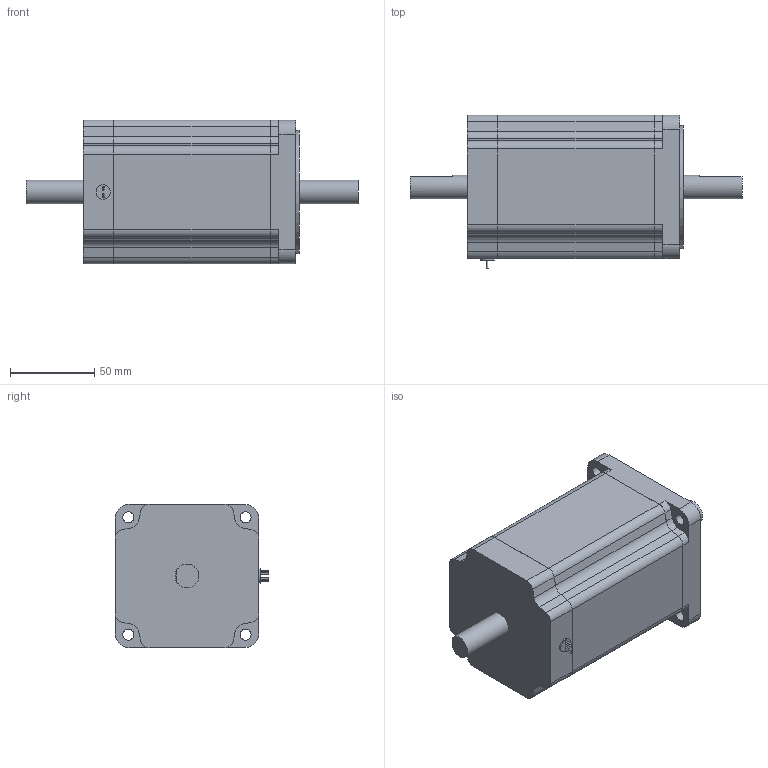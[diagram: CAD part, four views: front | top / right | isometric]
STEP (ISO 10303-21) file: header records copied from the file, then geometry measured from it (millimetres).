
FILE_DESCRIPTION(/* description */ ('STEP AP242','CAx-IF Rec.Pracs.---Representation and Presentation of Product Manufacturing Information (PMI)---4.0---2014-10-13','CAx-IF Rec.Pracs.---3D Tessellated Geometry---0.4---2014-09-14','2;1'),/* implementation_level */ '2;1');
FILE_NAME(/* name */ 'PKP2913D56B',/* time_stamp */ '2026-09-16T09:30:57+02:00',/* author */ ('License CC BY-ND 4.0'),/* organization */ ('CADENAS'),/* preprocessor_version */ 'ST-DEVELOPER v20',/* originating_system */ 'PARTsolutions',/* authorisation */ ' ');
FILE_SCHEMA (('AP242_MANAGED_MODEL_BASED_3D_ENGINEERING_MIM_LF { 1 0 10303 442 1 1 4 }'));
Length unit declared in the file: millimetre
Products named in the file (2): PKP2913D56B; PKP2913D56B_body
Assembly tree (1 placements, depth 2):
  PKP2913D56B
    PKP2913D56B_body
Bounding box: 197 x 91 x 85 mm (x, y, z)
Volume: 828528.7 mm3; surface area: 57195.5 mm2
Topology: 1 solids, 1 shells, 158 faces, 436 edges, 292 vertices
Faces by surface type: plane 82, cylinder 76
Full cylindrical faces by diameter (mm): 1 x4, 6.5 x4, 8.5 x1, 14 x2, 73.025 x1
Entity records: 5029 total; most frequent: DIRECTION 892, CARTESIAN_POINT 864, ORIENTED_EDGE 836, EDGE_CURVE 418, AXIS2_PLACEMENT_3D 314, VERTEX_POINT 286, LINE 264, VECTOR 264
